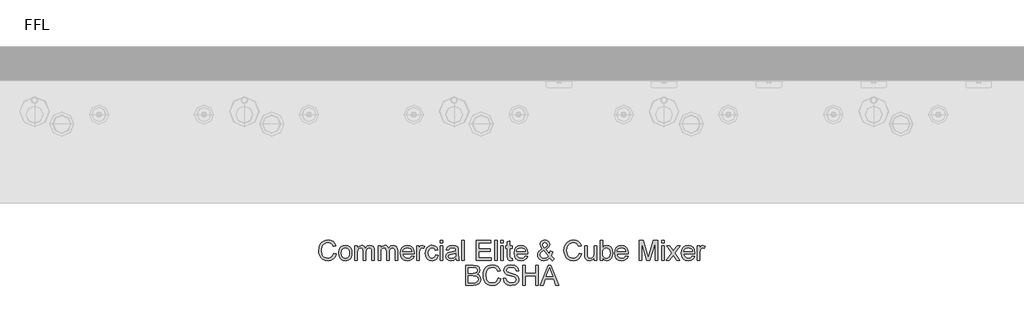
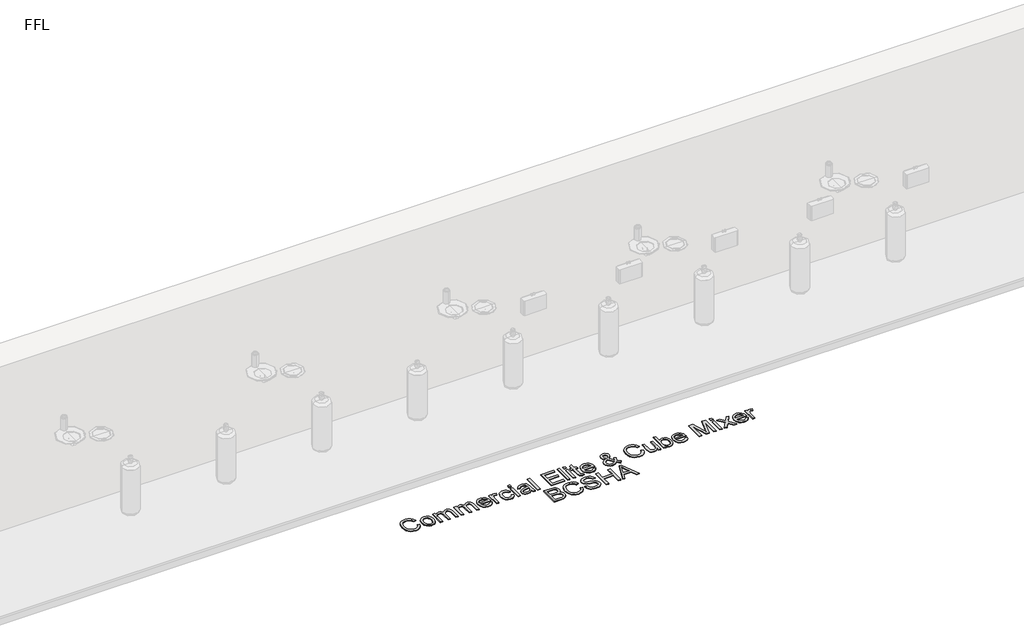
# One storey, part 5 of 13: 1 proxy.
"""IFC4 building model written with IfcOpenShell, lengths in millimetres."""

from ifc_helpers import new_model, si_unit, origin, origin_with_axes, place, context, project, spatial, polyline, outline, extrude, element, save

model = new_model("IFC4")

# Units and contexts
model_context = context("Model", 3, world=origin())
ifc_project = project(units=[si_unit("LENGTHUNIT", "METRE", prefix="MILLI")], contexts=[model_context])

# Site, building, storey
site = spatial("IfcSite", under=ifc_project)
building = spatial("IfcBuilding", under=site)
storey = spatial("IfcBuildingStorey", under=building, Name="FFL", Elevation=0.0)

# Proxy
placement = place(None, origin())
element("IfcBuildingElementProxy", 1, Name="150mm Arial", ObjectType="150mm Arial", at=placement, inside=storey, context=model_context, shape_type="SweptSolid", body=[
    extrude(outline(polyline([(5635.1685533, -4463.6981691), (5653.6300917, -4468.4577845), (5645.1114619, -4489.9707052), (5631.7430725, -4505.6873518), (5614.1829764, -4515.301234), (5593.0892264, -4518.5058614), (5571.6754643, -4516.0809816), (5554.6697552, -4508.8063422), (5541.6348994, -4496.934347), (5532.1336975, -4480.7173999), (5526.3329163, -4461.6518951), (5524.3993225, -4441.2342268), (5526.5853201, -4419.6987701), (5533.1433129, -4401.1020153), (5543.7307528, -4386.0344071), (5558.0050917, -4375.0863903), (5574.9341783, -4368.4202244), (5593.485861, -4366.1981691), (5613.727748, -4369.0737701), (5630.4630244, -4377.700573), (5643.1688538, -4391.5467268), (5651.3223994, -4410.0803807), (5632.860861, -4414.4794191), (5626.4606206, -4401.0163783), (5617.7166302, -4391.7811018), (5606.5207167, -4386.4400561), (5592.7647071, -4384.6597076), (5576.9083369, -4386.6338662), (5563.8824956, -4392.5563422), (5553.9981807, -4401.8051403), (5547.5663898, -4413.7582653), (5542.860861, -4441.1981691), (5548.4317744, -4473.0010537), (5555.5531687, -4484.8775561), (5565.7755244, -4493.3195633), (5578.0306326, -4498.3631331), (5591.2502841, -4500.044323), (5606.6604403, -4497.7546595), (5619.501486, -4490.8856691), (5629.196498, -4479.5094672), (5635.1685533, -4463.6981691)])), origin_with_axes(), (0.0, 0.0, 1.0), 5.0),
    extrude(outline(polyline([(5672.0916302, -4461.9673999), (5676.0850196, -4435.8165585), (5688.0651879, -4417.4361499), (5702.8668706, -4408.4307412), (5720.5892264, -4405.4289383), (5739.9837576, -4409.0842869), (5755.4750437, -4420.0503326), (5765.6297913, -4437.4616908), (5769.0147071, -4460.4529768), (5767.5183129, -4479.1038182), (5763.0291302, -4493.3015345), (5755.6778682, -4503.9340465), (5745.595236, -4511.8892749), (5733.6195749, -4516.8517148), (5720.5892264, -4518.5058614), (5700.9603201, -4514.8640345), (5685.4870629, -4503.9385537), (5675.4404884, -4486.1621114), (5672.0916302, -4461.9673999)]), holes=[polyline([(5690.5531687, -4461.9313422), (5692.6895869, -4478.6395754), (5699.0988417, -4490.543121), (5708.7442744, -4497.6690225), (5720.5892264, -4500.044323), (5732.3800917, -4497.6555008), (5742.0074956, -4490.4890345), (5748.4167504, -4478.4277364), (5750.5531687, -4461.3544191), (5748.4032288, -4445.1329648), (5741.9534091, -4433.3916787), (5732.3124836, -4426.2657773), (5720.5892264, -4423.8904768), (5708.7442744, -4426.2567629), (5699.0988417, -4433.355621), (5692.6895869, -4445.2321234), (5690.5531687, -4461.9313422)])]), origin_with_axes(), (0.0, 0.0, 1.0), 5.0),
    extrude(outline(polyline([(5789.7839379, -4516.1981691), (5789.7839379, -4407.7366307), (5808.2454764, -4407.7366307), (5808.2454764, -4425.5851883), (5820.9377841, -4410.9637941), (5839.0026879, -4405.4289383), (5849.2701158, -4406.8396956), (5857.5002841, -4411.0719672), (5867.6685533, -4426.8832653), (5882.0736014, -4410.7925201), (5900.2647071, -4405.4289383), (5914.1424115, -4407.6600081), (5924.4053321, -4414.3532172), (5930.7469788, -4425.6888542), (5932.860861, -4441.8472076), (5932.860861, -4516.1981691), (5914.3993225, -4516.1981691), (5914.3993225, -4449.7798999), (5912.6865821, -4434.3652364), (5906.4846591, -4426.7750922), (5895.9377841, -4423.8904768), (5885.9362816, -4425.7384335), (5877.782736, -4431.2823037), (5872.3605605, -4440.9006932), (5870.5531687, -4454.9722076), (5870.5531687, -4516.1981691), (5852.0916302, -4516.1981691), (5852.0916302, -4447.7246114), (5847.8187937, -4429.839996), (5842.180272, -4425.3778566), (5833.8103802, -4423.8904768), (5820.1445148, -4427.856823), (5811.0579764, -4439.4673999), (5808.2454764, -4461.4986499), (5808.2454764, -4516.1981691), (5789.7839379, -4516.1981691)])), origin_with_axes(), (0.0, 0.0, 1.0), 5.0),
    extrude(outline(polyline([(5960.5531687, -4516.1981691), (5960.5531687, -4407.7366307), (5979.0147071, -4407.7366307), (5979.0147071, -4425.5851883), (5991.7070148, -4410.9637941), (6009.7719187, -4405.4289383), (6020.0393466, -4406.8396956), (6028.2695148, -4411.0719672), (6038.4377841, -4426.8832653), (6052.8428321, -4410.7925201), (6071.0339379, -4405.4289383), (6084.9116422, -4407.6600081), (6095.1745629, -4414.3532172), (6101.5162095, -4425.6888542), (6103.6300917, -4441.8472076), (6103.6300917, -4516.1981691), (6085.1685533, -4516.1981691), (6085.1685533, -4449.7798999), (6083.4558129, -4434.3652364), (6077.2538898, -4426.7750922), (6066.7070148, -4423.8904768), (6056.7055124, -4425.7384335), (6048.5519667, -4431.2823037), (6043.1297913, -4440.9006932), (6041.3223994, -4454.9722076), (6041.3223994, -4516.1981691), (6022.860861, -4516.1981691), (6022.860861, -4447.7246114), (6018.5880244, -4429.839996), (6012.9495028, -4425.3778566), (6004.579611, -4423.8904768), (5990.9137456, -4427.856823), (5981.8272071, -4439.4673999), (5979.0147071, -4461.4986499), (5979.0147071, -4516.1981691), (5960.5531687, -4516.1981691)])), origin_with_axes(), (0.0, 0.0, 1.0), 5.0),
    extrude(outline(polyline([(6207.2598994, -4483.8904768), (6225.360861, -4486.1981691), (6218.8389259, -4499.8369912), (6208.4317744, -4510.0323037), (6194.3737816, -4516.387472), (6176.8993225, -4518.5058614), (6155.2376639, -4514.8505129), (6138.5699956, -4503.8844672), (6127.9419908, -4486.3198638), (6124.3993225, -4462.8688422), (6127.9780485, -4438.6290585), (6138.7142264, -4420.5010537), (6155.1565341, -4409.1969672), (6175.8536494, -4405.4289383), (6195.9062336, -4409.1879528), (6211.9293706, -4420.464996), (6222.4356807, -4438.5569432), (6225.9377841, -4462.7606691), (6225.829611, -4467.7366307), (6142.860861, -4467.7366307), (6146.056474, -4481.5557412), (6153.4798514, -4491.714996), (6164.1934932, -4497.9619912), (6177.2598994, -4500.044323), (6195.360861, -4496.1861499), (6207.2598994, -4483.8904768)]), holes=[polyline([(6142.860861, -4449.2750922), (6207.4762456, -4449.2750922), (6204.9792504, -4439.5214864), (6200.0844187, -4432.544323), (6189.3211975, -4426.0539383), (6175.7815341, -4423.8904768), (6163.337123, -4425.6167388), (6153.0471591, -4430.7955249), (6145.8942143, -4438.8679408), (6142.860861, -4449.2750922)])]), origin_with_axes(), (0.0, 0.0, 1.0), 5.0),
    extrude(outline(polyline([(6244.3993225, -4516.1981691), (6244.3993225, -4407.7366307), (6260.5531687, -4407.7366307), (6260.5531687, -4423.7823037), (6272.0195148, -4408.9986499), (6283.5579764, -4405.4289383), (6302.0916302, -4411.1260537), (6295.9257648, -4427.6765345), (6282.9449956, -4423.8904768), (6272.5062937, -4427.5323037), (6265.8536494, -4437.6284576), (6262.860861, -4459.1909576), (6262.860861, -4516.1981691), (6244.3993225, -4516.1981691)])), origin_with_axes(), (0.0, 0.0, 1.0), 5.0),
    extrude(outline(polyline([(6382.860861, -4476.9673999), (6401.3223994, -4479.2750922), (6396.1751639, -4495.6948638), (6386.5026879, -4508.1032172), (6373.2154283, -4515.9052004), (6357.2238417, -4518.5058614), (6337.5859211, -4514.8775561), (6322.2298514, -4503.9926403), (6312.3184932, -4486.3288783), (6309.0147071, -4462.3640345), (6314.657736, -4431.6969672), (6321.7791302, -4420.1990706), (6331.8572552, -4411.9914383), (6343.9140461, -4407.0695633), (6356.9714379, -4405.4289383), (6372.570897, -4407.6825441), (6385.0423514, -4414.4433614), (6393.9891663, -4425.3508133), (6399.0147071, -4440.044323), (6380.5531687, -4442.3520153), (6371.9894667, -4428.5238903), (6357.1156687, -4423.8904768), (6345.1850797, -4426.1711258), (6335.7154283, -4433.013073), (6329.5360413, -4444.7859095), (6327.4762456, -4461.8592268), (6329.4909691, -4479.1624119), (6335.5351398, -4490.9758133), (6344.8335172, -4497.7771956), (6356.610861, -4500.044323), (6366.1706566, -4498.6290585), (6374.0086975, -4494.3832653), (6379.7103201, -4487.1987701), (6382.860861, -4476.9673999)])), origin_with_axes(), (0.0, 0.0, 1.0), 5.0),
    extrude(outline(polyline([(6417.4762456, -4386.9673999), (6417.4762456, -4368.5058614), (6435.9377841, -4368.5058614), (6435.9377841, -4386.9673999), (6417.4762456, -4386.9673999)])), origin_with_axes(), (0.0, 0.0, 1.0), 5.0),
    extrude(outline(polyline([(6417.4762456, -4516.1981691), (6417.4762456, -4407.7366307), (6435.9377841, -4407.7366307), (6435.9377841, -4516.1981691), (6417.4762456, -4516.1981691)])), origin_with_axes(), (0.0, 0.0, 1.0), 5.0),
    extrude(outline(polyline([(6532.860861, -4502.3520153), (6514.9582167, -4514.8640345), (6495.1805725, -4518.5058614), (6479.7523874, -4516.3153566), (6468.3716783, -4509.7438422), (6461.3539499, -4499.7648758), (6459.0147071, -4487.3520153), (6462.548361, -4472.7486499), (6471.8332167, -4462.1476883), (6484.7598994, -4456.089996), (6500.7334571, -4453.3135537), (6532.7526879, -4446.9673999), (6532.860861, -4442.856823), (6531.5898273, -4434.6176403), (6527.7767264, -4429.2270153), (6519.2490821, -4425.2246114), (6507.3680725, -4423.8904768), (6488.6901879, -4427.4421595), (6479.7839379, -4440.044323), (6461.3223994, -4437.7366307), (6469.3091783, -4419.7077845), (6485.3909091, -4409.1428807), (6509.7478802, -4405.4289383), (6532.1216783, -4408.7101883), (6544.7598994, -4416.949371), (6550.4209571, -4429.4794191), (6551.3223994, -4445.6332653), (6551.3223994, -4468.6020153), (6552.2598994, -4500.6753326), (6555.9377841, -4516.1981691), (6537.4762456, -4516.1981691), (6532.860861, -4502.3520153)]), holes=[polyline([(6532.860861, -4465.4289383), (6503.0772071, -4471.089996), (6487.1937937, -4474.0827845), (6480.0002841, -4478.950573), (6477.4762456, -4486.0539383), (6482.9750437, -4496.0419191), (6499.110861, -4500.044323), (6517.7887456, -4495.6272557), (6529.8320148, -4484.9361499), (6532.7526879, -4470.6573037), (6532.860861, -4465.4289383)])]), origin_with_axes(), (0.0, 0.0, 1.0), 5.0),
    extrude(outline(polyline([(6576.7070148, -4516.1981691), (6576.7070148, -4368.5058614), (6595.1685533, -4368.5058614), (6595.1685533, -4516.1981691), (6576.7070148, -4516.1981691)])), origin_with_axes(), (0.0, 0.0, 1.0), 5.0),
    extrude(outline(polyline([(6682.860861, -4516.1981691), (6682.860861, -4368.5058614), (6789.0147071, -4368.5058614), (6789.0147071, -4386.9673999), (6701.3223994, -4386.9673999), (6701.3223994, -4430.8135537), (6784.3993225, -4430.8135537), (6784.3993225, -4449.2750922), (6701.3223994, -4449.2750922), (6701.3223994, -4497.7366307), (6791.3223994, -4497.7366307), (6791.3223994, -4516.1981691), (6682.860861, -4516.1981691)])), origin_with_axes(), (0.0, 0.0, 1.0), 5.0),
    extrude(outline(polyline([(6816.7070148, -4516.1981691), (6816.7070148, -4368.5058614), (6835.1685533, -4368.5058614), (6835.1685533, -4516.1981691), (6816.7070148, -4516.1981691)])), origin_with_axes(), (0.0, 0.0, 1.0), 5.0),
    extrude(outline(polyline([(6862.860861, -4516.1981691), (6862.860861, -4407.7366307), (6881.3223994, -4407.7366307), (6881.3223994, -4516.1981691), (6862.860861, -4516.1981691)])), origin_with_axes(), (0.0, 0.0, 1.0), 5.0),
    extrude(outline(polyline([(6862.860861, -4386.9673999), (6862.860861, -4368.5058614), (6881.3223994, -4368.5058614), (6881.3223994, -4386.9673999), (6862.860861, -4386.9673999)])), origin_with_axes(), (0.0, 0.0, 1.0), 5.0),
    extrude(outline(polyline([(6948.2454764, -4500.8015345), (6950.5531687, -4516.7390345), (6936.7430725, -4518.5058614), (6921.2743225, -4515.4409576), (6913.5579764, -4507.4000922), (6911.3223994, -4486.450573), (6911.3223994, -4426.1981691), (6897.4762456, -4426.1981691), (6897.4762456, -4407.7366307), (6911.3223994, -4407.7366307), (6911.3223994, -4381.3784576), (6929.7839379, -4370.5250922), (6929.7839379, -4407.7366307), (6948.2454764, -4407.7366307), (6948.2454764, -4426.1981691), (6929.7839379, -4426.1981691), (6929.7839379, -4485.9097076), (6930.7574956, -4495.4289383), (6933.9125437, -4498.8003326), (6940.204611, -4500.044323), (6948.2454764, -4500.8015345)])), origin_with_axes(), (0.0, 0.0, 1.0), 5.0),
    extrude(outline(polyline([(7042.6445148, -4483.8904768), (7060.7454764, -4486.1981691), (7054.2235413, -4499.8369912), (7043.8163898, -4510.0323037), (7029.758397, -4516.387472), (7012.2839379, -4518.5058614), (6990.6222792, -4514.8505129), (6973.954611, -4503.8844672), (6963.3266062, -4486.3198638), (6959.7839379, -4462.8688422), (6963.3626639, -4438.6290585), (6974.0988417, -4420.5010537), (6990.5411494, -4409.1969672), (7011.2382648, -4405.4289383), (7031.290849, -4409.1879528), (7047.313986, -4420.464996), (7057.8202961, -4438.5569432), (7061.3223994, -4462.7606691), (7061.2142264, -4467.7366307), (6978.2454764, -4467.7366307), (6981.4410893, -4481.5557412), (6988.8644667, -4491.714996), (6999.5781086, -4497.9619912), (7012.6445148, -4500.044323), (7030.7454764, -4496.1861499), (7042.6445148, -4483.8904768)]), holes=[polyline([(6978.2454764, -4449.2750922), (7042.860861, -4449.2750922), (7040.3638658, -4439.5214864), (7035.4690341, -4432.544323), (7024.7058129, -4426.0539383), (7011.1661494, -4423.8904768), (6998.7217384, -4425.6167388), (6988.4317744, -4430.7955249), (6981.2788297, -4438.8679408), (6978.2454764, -4449.2750922)])]), origin_with_axes(), (0.0, 0.0, 1.0), 5.0),
    extrude(outline(polyline([(7222.1757648, -4497.9529768), (7202.5964379, -4513.3676403), (7179.6998033, -4518.5058614), (7159.3272071, -4514.7017749), (7143.642111, -4503.2895153), (7135.5561735, -4490.1555008), (7132.860861, -4475.5611499), (7135.0288297, -4462.6254528), (7141.532736, -4451.0058614), (7152.3455365, -4440.7113903), (7167.4401879, -4431.7510537), (7154.5495629, -4413.0731691), (7151.3223994, -4399.2270153), (7153.8644667, -4386.7600682), (7161.4906687, -4376.0419191), (7172.9660292, -4368.6591066), (7187.0555725, -4366.1981691), (7200.4600196, -4368.5509335), (7211.1781687, -4375.6092268), (7218.2094187, -4385.9667989), (7220.5531687, -4398.2173999), (7218.8178922, -4408.5028566), (7213.6120629, -4418.013073), (7192.7887456, -4434.7077845), (7219.5074956, -4467.9890345), (7227.4762456, -4447.544323), (7245.9377841, -4451.5467268), (7232.8848994, -4481.9433614), (7255.1685533, -4504.2991307), (7241.3223994, -4518.5058614), (7222.1757648, -4497.9529768)]), holes=[polyline([(7183.4498033, -4423.0611499), (7198.6300917, -4411.6128326), (7202.0916302, -4400.7414383), (7197.5303321, -4389.1488903), (7186.1180725, -4384.6597076), (7174.4534091, -4389.1128326), (7169.7839379, -4399.9842268), (7171.3704764, -4406.7450441), (7176.1661494, -4414.263073), (7183.4498033, -4423.0611499)]), polyline([(7209.8079764, -4484.6476883), (7176.8512456, -4443.5058614), (7156.5687937, -4458.9746114), (7151.3223994, -4473.1092268), (7153.1162696, -4481.8171595), (7158.4978802, -4490.8496114), (7167.1697552, -4497.7456451), (7178.8344187, -4500.044323), (7195.7995629, -4495.7534576), (7209.8079764, -4484.6476883)])]), origin_with_axes(), (0.0, 0.0, 1.0), 5.0),
    extrude(outline(polyline([(7437.4762456, -4463.6981691), (7455.9377841, -4468.4577845), (7447.4191542, -4489.9707052), (7434.0507648, -4505.6873518), (7416.4906687, -4515.301234), (7395.3969187, -4518.5058614), (7373.9831566, -4516.0809816), (7356.9774475, -4508.8063422), (7343.9425917, -4496.934347), (7334.4413898, -4480.7173999), (7328.6406086, -4461.6518951), (7326.7070148, -4441.2342268), (7328.8930124, -4419.6987701), (7335.4510052, -4401.1020153), (7346.0384451, -4386.0344071), (7360.3127841, -4375.0863903), (7377.2418706, -4368.4202244), (7395.7935533, -4366.1981691), (7416.0354403, -4369.0737701), (7432.7707167, -4377.700573), (7445.4765461, -4391.5467268), (7453.6300917, -4410.0803807), (7435.1685533, -4414.4794191), (7428.7683129, -4401.0163783), (7420.0243225, -4391.7811018), (7408.8284091, -4386.4400561), (7395.0723994, -4384.6597076), (7379.2160292, -4386.6338662), (7366.1901879, -4392.5563422), (7356.305873, -4401.8051403), (7349.8740821, -4413.7582653), (7345.1685533, -4441.1981691), (7350.7394667, -4473.0010537), (7357.860861, -4484.8775561), (7368.0832167, -4493.3195633), (7380.3383249, -4498.3631331), (7393.5579764, -4500.044323), (7408.9681326, -4497.7546595), (7421.8091783, -4490.8856691), (7431.5041903, -4479.5094672), (7437.4762456, -4463.6981691)])), origin_with_axes(), (0.0, 0.0, 1.0), 5.0),
    extrude(outline(polyline([(7548.2454764, -4516.1981691), (7548.2454764, -4497.5563422), (7533.7863417, -4513.2684816), (7514.9281687, -4518.5058614), (7497.5663898, -4514.8279768), (7485.595236, -4505.5972076), (7480.0964379, -4492.0034576), (7479.0147071, -4474.839996), (7479.0147071, -4407.7366307), (7497.4762456, -4407.7366307), (7497.4762456, -4466.1500922), (7498.5940341, -4484.9722076), (7505.8957167, -4496.0238903), (7519.6517264, -4500.044323), (7535.0663898, -4495.933746), (7545.2526879, -4484.7378326), (7548.2454764, -4464.1669191), (7548.2454764, -4407.7366307), (7566.7070148, -4407.7366307), (7566.7070148, -4516.1981691), (7548.2454764, -4516.1981691)])), origin_with_axes(), (0.0, 0.0, 1.0), 5.0),
    extrude(outline(polyline([(7610.5531687, -4516.1981691), (7592.0916302, -4516.1981691), (7592.0916302, -4368.5058614), (7610.5531687, -4368.5058614), (7610.5531687, -4423.277496), (7623.4798514, -4409.8910778), (7639.5435533, -4405.4289383), (7658.0411494, -4409.449371), (7672.392111, -4420.7534576), (7681.2082167, -4438.3315826), (7684.3993225, -4460.3448037), (7681.0955365, -4484.9902364), (7671.1841783, -4503.325573), (7656.6394066, -4514.7107893), (7639.4353802, -4518.5058614), (7623.0201158, -4513.6110297), (7610.5531687, -4498.9265345), (7610.5531687, -4516.1981691)]), holes=[polyline([(7610.5531687, -4461.2101883), (7611.8151879, -4476.606823), (7615.6012456, -4487.027496), (7625.2737216, -4496.7901162), (7637.8488417, -4500.044323), (7648.5038898, -4497.6464864), (7657.6084571, -4490.4529768), (7663.8554523, -4478.5088662), (7665.9377841, -4461.8592268), (7663.9410893, -4444.966198), (7657.9510052, -4433.1573037), (7649.1303922, -4426.2071835), (7638.642111, -4423.8904768), (7627.9870629, -4426.2883133), (7618.8824956, -4433.481823), (7612.6355004, -4445.2095874), (7610.5531687, -4461.2101883)])]), origin_with_axes(), (0.0, 0.0, 1.0), 5.0),
    extrude(outline(polyline([(7781.1060533, -4483.8904768), (7799.2070148, -4486.1981691), (7792.6850797, -4499.8369912), (7782.2779283, -4510.0323037), (7768.2199355, -4516.387472), (7750.7454764, -4518.5058614), (7729.0838177, -4514.8505129), (7712.4161494, -4503.8844672), (7701.7881446, -4486.3198638), (7698.2454764, -4462.8688422), (7701.8242023, -4438.6290585), (7712.5603802, -4420.5010537), (7729.0026879, -4409.1969672), (7749.6998033, -4405.4289383), (7769.7523874, -4409.1879528), (7785.7755244, -4420.464996), (7796.2818345, -4438.5569432), (7799.7839379, -4462.7606691), (7799.6757648, -4467.7366307), (7716.7070148, -4467.7366307), (7719.9026278, -4481.5557412), (7727.3260052, -4491.714996), (7738.039647, -4497.9619912), (7751.1060533, -4500.044323), (7769.2070148, -4496.1861499), (7781.1060533, -4483.8904768)]), holes=[polyline([(7716.7070148, -4449.2750922), (7781.3223994, -4449.2750922), (7778.8254042, -4439.5214864), (7773.9305725, -4432.544323), (7763.1673514, -4426.0539383), (7749.6276879, -4423.8904768), (7737.1832768, -4425.6167388), (7726.8933129, -4430.7955249), (7719.7403682, -4438.8679408), (7716.7070148, -4449.2750922)])]), origin_with_axes(), (0.0, 0.0, 1.0), 5.0),
    extrude(outline(polyline([(7878.2454764, -4516.1981691), (7878.2454764, -4368.5058614), (7910.0123033, -4368.5058614), (7940.2286494, -4472.6044191), (7946.3223994, -4494.3472076), (7952.9209571, -4470.8015345), (7982.6324956, -4368.5058614), (8014.3993225, -4368.5058614), (8014.3993225, -4516.1981691), (7995.9377841, -4516.1981691), (7995.9377841, -4386.9673999), (7958.8344187, -4516.1981691), (7933.8103802, -4516.1981691), (7896.7070148, -4386.9673999), (7896.7070148, -4516.1981691), (7878.2454764, -4516.1981691)])), origin_with_axes(), (0.0, 0.0, 1.0), 5.0),
    extrude(outline(polyline([(8044.3993225, -4516.1981691), (8044.3993225, -4407.7366307), (8062.860861, -4407.7366307), (8062.860861, -4516.1981691), (8044.3993225, -4516.1981691)])), origin_with_axes(), (0.0, 0.0, 1.0), 5.0),
    extrude(outline(polyline([(8044.3993225, -4386.9673999), (8044.3993225, -4368.5058614), (8062.860861, -4368.5058614), (8062.860861, -4386.9673999), (8044.3993225, -4386.9673999)])), origin_with_axes(), (0.0, 0.0, 1.0), 5.0),
    extrude(outline(polyline([(8079.0147071, -4516.1981691), (8118.4618225, -4461.6789383), (8081.3223994, -4407.7366307), (8103.5339379, -4407.7366307), (8121.454611, -4433.6981691), (8129.8199956, -4445.9577845), (8137.0675917, -4435.933746), (8157.4762456, -4407.7366307), (8179.6877841, -4407.7366307), (8140.673361, -4461.6789383), (8178.2454764, -4516.1981691), (8156.0339379, -4516.1981691), (8133.4257648, -4483.4217268), (8129.2791302, -4477.4361499), (8101.2262456, -4516.1981691), (8079.0147071, -4516.1981691)])), origin_with_axes(), (0.0, 0.0, 1.0), 5.0),
    extrude(outline(polyline([(8270.3368225, -4483.8904768), (8288.4377841, -4486.1981691), (8281.915849, -4499.8369912), (8271.5086975, -4510.0323037), (8257.4507047, -4516.387472), (8239.9762456, -4518.5058614), (8218.3145869, -4514.8505129), (8201.6469187, -4503.8844672), (8191.0189139, -4486.3198638), (8187.4762456, -4462.8688422), (8191.0549716, -4438.6290585), (8201.7911494, -4420.5010537), (8218.2334571, -4409.1969672), (8238.9305725, -4405.4289383), (8258.9831566, -4409.1879528), (8275.0062937, -4420.464996), (8285.5126038, -4438.5569432), (8289.0147071, -4462.7606691), (8288.9065341, -4467.7366307), (8205.9377841, -4467.7366307), (8209.133397, -4481.5557412), (8216.5567744, -4491.714996), (8227.2704163, -4497.9619912), (8240.3368225, -4500.044323), (8258.4377841, -4496.1861499), (8270.3368225, -4483.8904768)]), holes=[polyline([(8205.9377841, -4449.2750922), (8270.5531687, -4449.2750922), (8268.0561735, -4439.5214864), (8263.1613417, -4432.544323), (8252.3981206, -4426.0539383), (8238.8584571, -4423.8904768), (8226.4140461, -4425.6167388), (8216.1240821, -4430.7955249), (8208.9711374, -4438.8679408), (8205.9377841, -4449.2750922)])]), origin_with_axes(), (0.0, 0.0, 1.0), 5.0),
    extrude(outline(polyline([(8307.4762456, -4516.1981691), (8307.4762456, -4407.7366307), (8323.6300917, -4407.7366307), (8323.6300917, -4423.7823037), (8335.0964379, -4408.9986499), (8346.6348994, -4405.4289383), (8365.1685533, -4411.1260537), (8359.0026879, -4427.6765345), (8346.0219187, -4423.8904768), (8335.5832167, -4427.5323037), (8328.9305725, -4437.6284576), (8325.9377841, -4459.1909576), (8325.9377841, -4516.1981691), (8307.4762456, -4516.1981691)])), origin_with_axes(), (0.0, 0.0, 1.0), 5.0),
    extrude(outline(polyline([(6603.2454764, -4698.5058614), (6603.2454764, -4550.8135537), (6659.6036494, -4550.8135537), (6687.2058129, -4555.1585057), (6696.4816542, -4560.6708254), (6703.5038898, -4568.5178807), (6709.3993225, -4587.4121114), (6704.4413898, -4604.6657172), (6689.4594187, -4617.7366307), (6699.9206566, -4623.199371), (6707.6505244, -4631.5106691), (6712.4236615, -4642.1206451), (6714.0147071, -4654.4794191), (6709.6697552, -4674.3291787), (6698.9065341, -4688.4637941), (6682.8428321, -4695.9637941), (6659.1709571, -4698.5058614), (6603.2454764, -4698.5058614)]), holes=[polyline([(6621.7070148, -4610.8135537), (6655.4209571, -4610.8135537), (6675.1084571, -4609.2270153), (6686.9534091, -4602.3940826), (6690.9377841, -4590.3688422), (6687.2238417, -4578.325573), (6676.5868225, -4571.2041787), (6652.860861, -4569.2750922), (6621.7070148, -4569.2750922), (6621.7070148, -4610.8135537)]), polyline([(6621.7070148, -4680.044323), (6659.5675917, -4680.044323), (6673.2695148, -4679.3231691), (6684.8620629, -4675.3027364), (6692.5423514, -4667.0996114), (6695.5531687, -4654.6597076), (6692.0195148, -4640.308746), (6680.5711975, -4631.7450441), (6657.7647071, -4629.2750922), (6621.7070148, -4629.2750922), (6621.7070148, -4680.044323)])]), origin_with_axes(), (0.0, 0.0, 1.0), 5.0),
    extrude(outline(polyline([(6843.2454764, -4646.0058614), (6861.7070148, -4650.7654768), (6853.188385, -4672.2783975), (6839.8199956, -4687.9950441), (6822.2598994, -4697.6089263), (6801.1661494, -4700.8135537), (6779.7523874, -4698.3886739), (6762.7466783, -4691.1140345), (6749.7118225, -4679.2420393), (6740.2106206, -4663.0250922), (6734.4098393, -4643.9595874), (6732.4762456, -4623.5419191), (6734.6622432, -4602.0064624), (6741.220236, -4583.4097076), (6751.8076759, -4568.3420994), (6766.0820148, -4557.3940826), (6783.0111014, -4550.7279167), (6801.5627841, -4548.5058614), (6821.8046711, -4551.3814624), (6838.5399475, -4560.0082653), (6851.2457768, -4573.8544191), (6859.3993225, -4592.388073), (6840.9377841, -4596.7871114), (6834.5375437, -4583.3240706), (6825.7935533, -4574.0887941), (6814.5976398, -4568.7477484), (6800.8416302, -4566.9673999), (6784.98526, -4568.9415585), (6771.9594187, -4574.8640345), (6762.0751038, -4584.1128326), (6755.6433129, -4596.0659576), (6750.9377841, -4623.5058614), (6756.5086975, -4655.308746), (6763.6300917, -4667.1852484), (6773.8524475, -4675.6272557), (6786.1075557, -4680.6708254), (6799.3272071, -4682.3520153), (6814.7373634, -4680.0623518), (6827.5784091, -4673.1933614), (6837.2734211, -4661.8171595), (6843.2454764, -4646.0058614)])), origin_with_axes(), (0.0, 0.0, 1.0), 5.0),
    extrude(outline(polyline([(6880.1685533, -4647.7366307), (6898.6300917, -4647.7366307), (6904.579611, -4666.216198), (6919.110861, -4677.8988903), (6941.2502841, -4682.3520153), (6960.5411494, -4678.980621), (6972.9990821, -4669.7137941), (6977.0916302, -4657.3279768), (6974.0267264, -4645.8075441), (6961.4786494, -4637.4241307), (6934.5976398, -4630.3748518), (6905.6613417, -4621.2702845), (6889.9582167, -4607.5323037), (6884.7839379, -4589.1789383), (6886.383998, -4578.3661379), (6891.1841783, -4568.2835057), (6899.0582768, -4559.7378326), (6909.8800917, -4553.5359095), (6937.2478802, -4548.5058614), (6966.454611, -4553.7702845), (6977.6505244, -4560.2696835), (6985.9257648, -4569.2390345), (6991.1631446, -4580.1194432), (6993.2454764, -4592.3520153), (6974.7839379, -4592.3520153), (6971.3945148, -4581.3363903), (6964.3272071, -4573.3856691), (6953.2845389, -4568.5719672), (6937.9690341, -4566.9673999), (6922.2929523, -4568.5539383), (6911.5387456, -4573.3135537), (6905.3187937, -4580.3177605), (6903.2454764, -4588.638073), (6904.7148273, -4595.7324239), (6909.1228802, -4601.4385537), (6939.267111, -4611.7510537), (6971.9353802, -4621.0178807), (6982.4597191, -4627.715597), (6989.8019667, -4635.981823), (6995.5531687, -4656.8592268), (6993.899022, -4668.2399359), (6988.9365821, -4678.9445633), (6980.8686735, -4688.1573037), (6969.8981206, -4695.0623518), (6941.9714379, -4700.8135537), (6923.883998, -4699.263073), (6908.9966783, -4694.6116307), (6897.1382047, -4686.841198), (6888.1373033, -4675.933746), (6882.3590581, -4662.6464864), (6880.1685533, -4647.7366307)])), origin_with_axes(), (0.0, 0.0, 1.0), 5.0),
    extrude(outline(polyline([(7023.2454764, -4698.5058614), (7023.2454764, -4550.8135537), (7041.7070148, -4550.8135537), (7041.7070148, -4610.8135537), (7120.1685533, -4610.8135537), (7120.1685533, -4550.8135537), (7138.6300917, -4550.8135537), (7138.6300917, -4698.5058614), (7120.1685533, -4698.5058614), (7120.1685533, -4629.2750922), (7041.7070148, -4629.2750922), (7041.7070148, -4698.5058614), (7023.2454764, -4698.5058614)])), origin_with_axes(), (0.0, 0.0, 1.0), 5.0),
    extrude(outline(polyline([(7153.7382648, -4698.5058614), (7212.6925917, -4550.8135537), (7228.4137456, -4550.8135537), (7287.3680725, -4698.5058614), (7267.860861, -4698.5058614), (7250.9498033, -4652.3520153), (7190.1204764, -4652.3520153), (7173.2454764, -4698.5058614), (7153.7382648, -4698.5058614)]), holes=[polyline([(7196.8993225, -4633.8904768), (7244.2070148, -4633.8904768), (7230.9017264, -4597.5803807), (7220.5531687, -4569.2750922), (7211.3584571, -4594.4073037), (7196.8993225, -4633.8904768)])]), origin_with_axes(), (0.0, 0.0, 1.0), 5.0),
])

save(model, "model.ifc")
